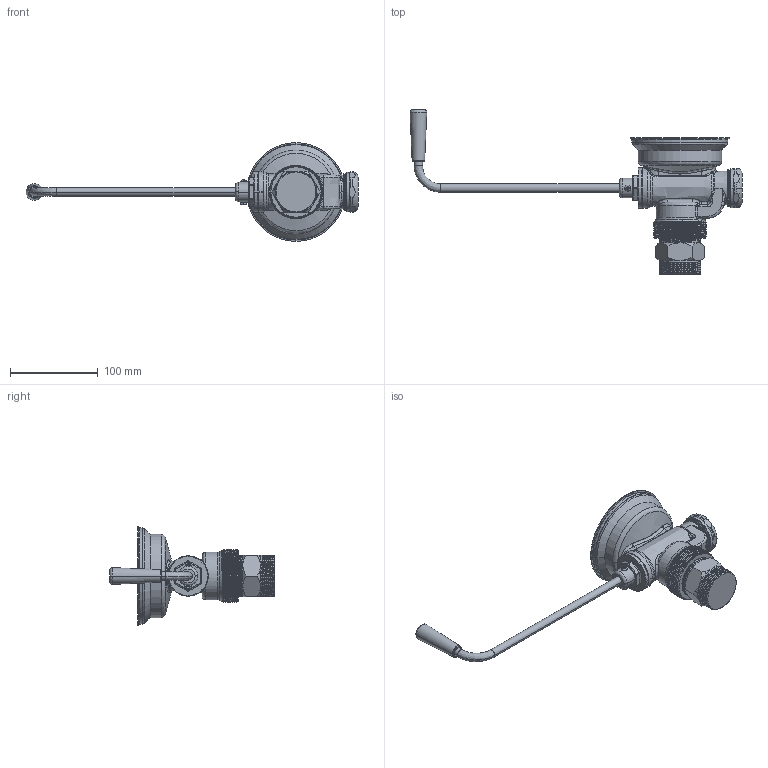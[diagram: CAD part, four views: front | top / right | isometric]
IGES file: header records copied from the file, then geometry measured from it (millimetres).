
Start section:  PTC IGES file: 1367-NF_REV050410.igs
Global section: file name: 1367-NF_REV050410.igs; native system: Pro/ENGINEER by Parametric Technology Corporation; preprocessor: 2009230; author: sdmitruk; organization: Unknown; date: 20100504.142402; units: inch
Bounding box: 377.69 x 186.69 x 112.52 mm (x, y, z)
Surface area: 97334.1 mm2 (no closed solid volume)
Topology: 0 solids, 0 shells, 364 faces, 2595 edges, 3431 vertices
Faces by surface type: revolution 220, bspline 144
